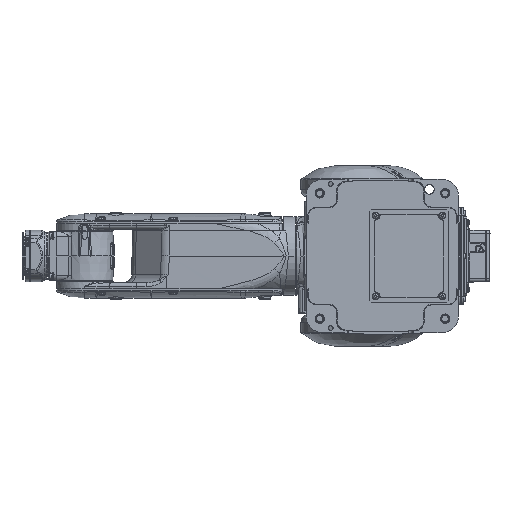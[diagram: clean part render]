
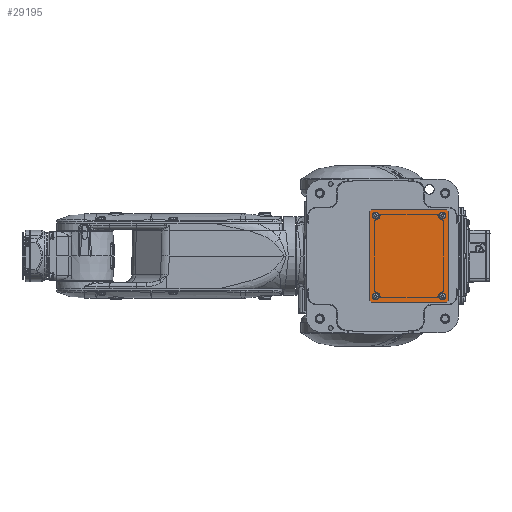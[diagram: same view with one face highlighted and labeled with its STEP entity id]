
A CAD part, front view. The second image highlights one B-rep face of the part: STEP entity #29195.
In plain terms, the highlighted planar face has unit normal (0, -1, 0).
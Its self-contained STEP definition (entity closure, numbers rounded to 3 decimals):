
#1855=DIRECTION('',(-1.,0.,0.));
#1856=VECTOR('',#1855,96.);
#1857=CARTESIAN_POINT('',(82.,4.6,59.));
#1858=LINE('',#1857,#1856);
#1867=DIRECTION('',(0.,0.,1.));
#1868=VECTOR('',#1867,114.);
#1869=CARTESIAN_POINT('',(84.,4.6,-57.));
#1870=LINE('',#1869,#1868);
#1879=DIRECTION('',(1.,0.,0.));
#1880=VECTOR('',#1879,96.);
#1881=CARTESIAN_POINT('',(-14.,4.6,-59.));
#1882=LINE('',#1881,#1880);
#1891=DIRECTION('',(0.,0.,-1.));
#1892=VECTOR('',#1891,114.);
#1893=CARTESIAN_POINT('',(-16.,4.6,57.));
#1894=LINE('',#1893,#1892);
#1903=DIRECTION('',(-0.707,0.,0.707));
#1904=VECTOR('',#1903,2.828);
#1905=CARTESIAN_POINT('',(-14.,4.6,-59.));
#1906=LINE('',#1905,#1904);
#1907=DIRECTION('',(0.707,0.,0.707));
#1908=VECTOR('',#1907,2.828);
#1909=CARTESIAN_POINT('',(-16.,4.6,57.));
#1910=LINE('',#1909,#1908);
#1911=DIRECTION('',(0.707,0.,-0.707));
#1912=VECTOR('',#1911,2.828);
#1913=CARTESIAN_POINT('',(82.,4.6,59.));
#1914=LINE('',#1913,#1912);
#1915=DIRECTION('',(-0.707,0.,-0.707));
#1916=VECTOR('',#1915,2.828);
#1917=CARTESIAN_POINT('',(84.,4.6,-57.));
#1918=LINE('',#1917,#1916);
#1919=CARTESIAN_POINT('',(-8.5,4.6,51.5));
#1920=DIRECTION('',(0.,-1.,0.));
#1921=DIRECTION('',(0.,0.,-1.));
#1922=AXIS2_PLACEMENT_3D('',#1919,#1920,#1921);
#1924=CARTESIAN_POINT('',(-8.5,4.6,51.5));
#1925=DIRECTION('',(0.,-1.,0.));
#1926=DIRECTION('',(0.,0.,1.));
#1927=AXIS2_PLACEMENT_3D('',#1924,#1925,#1926);
#1929=CARTESIAN_POINT('',(76.5,4.6,51.5));
#1930=DIRECTION('',(0.,-1.,0.));
#1931=DIRECTION('',(0.,0.,-1.));
#1932=AXIS2_PLACEMENT_3D('',#1929,#1930,#1931);
#1934=CARTESIAN_POINT('',(76.5,4.6,51.5));
#1935=DIRECTION('',(0.,-1.,0.));
#1936=DIRECTION('',(0.,0.,1.));
#1937=AXIS2_PLACEMENT_3D('',#1934,#1935,#1936);
#1939=CARTESIAN_POINT('',(76.5,4.6,-51.5));
#1940=DIRECTION('',(0.,-1.,0.));
#1941=DIRECTION('',(0.,0.,-1.));
#1942=AXIS2_PLACEMENT_3D('',#1939,#1940,#1941);
#1944=CARTESIAN_POINT('',(76.5,4.6,-51.5));
#1945=DIRECTION('',(0.,-1.,0.));
#1946=DIRECTION('',(0.,0.,1.));
#1947=AXIS2_PLACEMENT_3D('',#1944,#1945,#1946);
#1949=CARTESIAN_POINT('',(-8.5,4.6,-51.5));
#1950=DIRECTION('',(0.,-1.,0.));
#1951=DIRECTION('',(0.,0.,-1.));
#1952=AXIS2_PLACEMENT_3D('',#1949,#1950,#1951);
#1954=CARTESIAN_POINT('',(-8.5,4.6,-51.5));
#1955=DIRECTION('',(0.,-1.,0.));
#1956=DIRECTION('',(0.,0.,1.));
#1957=AXIS2_PLACEMENT_3D('',#1954,#1955,#1956);
#22723=CARTESIAN_POINT('',(82.,4.6,59.));
#22724=VERTEX_POINT('',#22723);
#22725=CARTESIAN_POINT('',(-14.,4.6,59.));
#22726=VERTEX_POINT('',#22725);
#22727=CARTESIAN_POINT('',(84.,4.6,57.));
#22728=VERTEX_POINT('',#22727);
#22729=CARTESIAN_POINT('',(84.,4.6,-57.));
#22730=VERTEX_POINT('',#22729);
#22731=CARTESIAN_POINT('',(82.,4.6,-59.));
#22732=VERTEX_POINT('',#22731);
#22733=CARTESIAN_POINT('',(-14.,4.6,-59.));
#22734=VERTEX_POINT('',#22733);
#22735=CARTESIAN_POINT('',(-16.,4.6,-57.));
#22736=VERTEX_POINT('',#22735);
#22737=CARTESIAN_POINT('',(-16.,4.6,57.));
#22738=VERTEX_POINT('',#22737);
#25708=CARTESIAN_POINT('',(-8.5,4.6,47.75));
#25709=CARTESIAN_POINT('',(-8.5,4.6,55.25));
#25710=VERTEX_POINT('',#25708);
#25711=VERTEX_POINT('',#25709);
#25750=CARTESIAN_POINT('',(76.5,4.6,47.75));
#25751=CARTESIAN_POINT('',(76.5,4.6,55.25));
#25752=VERTEX_POINT('',#25750);
#25753=VERTEX_POINT('',#25751);
#25792=CARTESIAN_POINT('',(76.5,4.6,-55.25));
#25793=CARTESIAN_POINT('',(76.5,4.6,-47.75));
#25794=VERTEX_POINT('',#25792);
#25795=VERTEX_POINT('',#25793);
#25834=CARTESIAN_POINT('',(-8.5,4.6,-55.25));
#25835=CARTESIAN_POINT('',(-8.5,4.6,-47.75));
#25836=VERTEX_POINT('',#25834);
#25837=VERTEX_POINT('',#25835);
#29156=CARTESIAN_POINT('',(34.,4.6,59.));
#29157=DIRECTION('',(0.,1.,0.));
#29158=DIRECTION('',(1.,0.,0.));
#29159=AXIS2_PLACEMENT_3D('',#29156,#29157,#29158);
#29160=PLANE('',#29159);
#29161=ORIENTED_EDGE('',*,*,#29123,.T.);
#29162=ORIENTED_EDGE('',*,*,#29137,.F.);
#29163=ORIENTED_EDGE('',*,*,#29150,.T.);
#29164=ORIENTED_EDGE('',*,*,#29052,.F.);
#29165=ORIENTED_EDGE('',*,*,#29067,.T.);
#29166=ORIENTED_EDGE('',*,*,#29081,.F.);
#29167=ORIENTED_EDGE('',*,*,#29095,.T.);
#29168=ORIENTED_EDGE('',*,*,#29109,.F.);
#29169=EDGE_LOOP('',(#29161,#29162,#29163,#29164,#29165,#29166,#29167,#29168));
#29170=FACE_OUTER_BOUND('',#29169,.F.);
#29172=ORIENTED_EDGE('',*,*,#29171,.T.);
#29174=ORIENTED_EDGE('',*,*,#29173,.T.);
#29175=EDGE_LOOP('',(#29172,#29174));
#29176=FACE_BOUND('',#29175,.F.);
#29178=ORIENTED_EDGE('',*,*,#29177,.T.);
#29180=ORIENTED_EDGE('',*,*,#29179,.T.);
#29181=EDGE_LOOP('',(#29178,#29180));
#29182=FACE_BOUND('',#29181,.F.);
#29184=ORIENTED_EDGE('',*,*,#29183,.T.);
#29186=ORIENTED_EDGE('',*,*,#29185,.T.);
#29187=EDGE_LOOP('',(#29184,#29186));
#29188=FACE_BOUND('',#29187,.F.);
#29190=ORIENTED_EDGE('',*,*,#29189,.T.);
#29192=ORIENTED_EDGE('',*,*,#29191,.T.);
#29193=EDGE_LOOP('',(#29190,#29192));
#29194=FACE_BOUND('',#29193,.F.);
#29195=ADVANCED_FACE('',(#29170,#29176,#29182,#29188,#29194),#29160,.F.);
#1923=CIRCLE('',#1922,3.75);
#1928=CIRCLE('',#1927,3.75);
#1933=CIRCLE('',#1932,3.75);
#1938=CIRCLE('',#1937,3.75);
#1943=CIRCLE('',#1942,3.75);
#1948=CIRCLE('',#1947,3.75);
#1953=CIRCLE('',#1952,3.75);
#1958=CIRCLE('',#1957,3.75);
#29052=EDGE_CURVE('',#22724,#22726,#1858,.T.);
#29067=EDGE_CURVE('',#22724,#22728,#1914,.T.);
#29081=EDGE_CURVE('',#22730,#22728,#1870,.T.);
#29095=EDGE_CURVE('',#22730,#22732,#1918,.T.);
#29109=EDGE_CURVE('',#22734,#22732,#1882,.T.);
#29123=EDGE_CURVE('',#22734,#22736,#1906,.T.);
#29137=EDGE_CURVE('',#22738,#22736,#1894,.T.);
#29150=EDGE_CURVE('',#22738,#22726,#1910,.T.);
#29171=EDGE_CURVE('',#25710,#25711,#1923,.T.);
#29173=EDGE_CURVE('',#25711,#25710,#1928,.T.);
#29177=EDGE_CURVE('',#25752,#25753,#1933,.T.);
#29179=EDGE_CURVE('',#25753,#25752,#1938,.T.);
#29183=EDGE_CURVE('',#25794,#25795,#1943,.T.);
#29185=EDGE_CURVE('',#25795,#25794,#1948,.T.);
#29189=EDGE_CURVE('',#25836,#25837,#1953,.T.);
#29191=EDGE_CURVE('',#25837,#25836,#1958,.T.);
